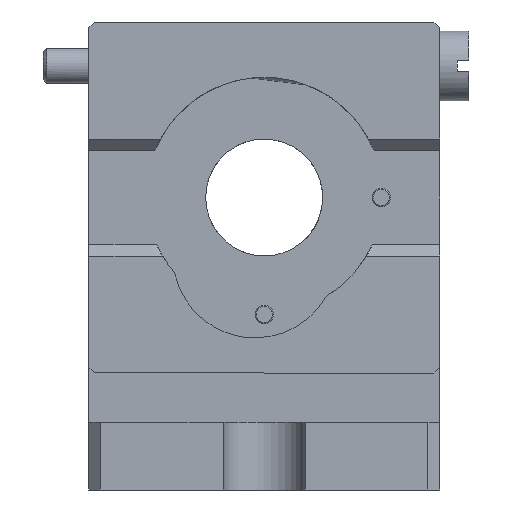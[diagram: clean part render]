
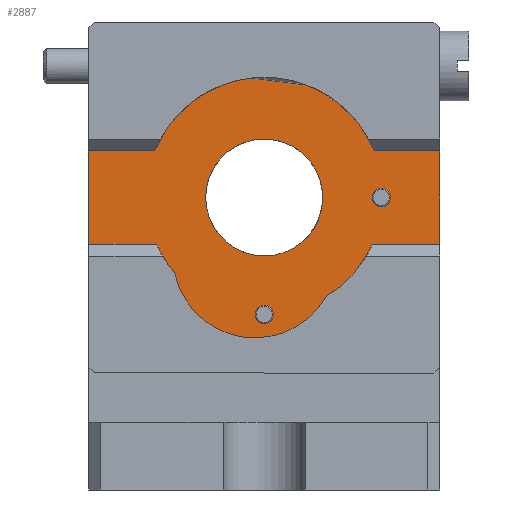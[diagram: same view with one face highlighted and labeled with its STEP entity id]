
A CAD part, front view. The second image highlights one B-rep face of the part: STEP entity #2887.
In plain terms, the highlighted planar face has unit normal (0, -1, 0).
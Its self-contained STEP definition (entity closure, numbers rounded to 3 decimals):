
#2244=CARTESIAN_POINT('',(-15.,-11.,21.0));
#2245=VERTEX_POINT('',#2244);
#2252=CARTESIAN_POINT('',(-15.0,-11.,29.));
#2253=VERTEX_POINT('',#2252);
#2254=CARTESIAN_POINT('',(-15.,-11.,21.0));
#2255=DIRECTION('',(0.0,0.0,1.0));
#2256=VECTOR('',#2255,8.);
#2257=LINE('',#2254,#2256);
#2258=EDGE_CURVE('',#2245,#2253,#2257,.T.);
#2352=CARTESIAN_POINT('',(-9.343,-11.,29.));
#2353=VERTEX_POINT('',#2352);
#2354=CARTESIAN_POINT('',(-9.343,-11.,29.));
#2355=DIRECTION('',(-1.0,0.0,0.0));
#2356=VECTOR('',#2355,5.657);
#2357=LINE('',#2354,#2356);
#2358=EDGE_CURVE('',#2353,#2253,#2357,.T.);
#2407=CARTESIAN_POINT('',(9.395,-11.,29.));
#2408=VERTEX_POINT('',#2407);
#2415=CARTESIAN_POINT('',(15.,-11.,29.));
#2416=VERTEX_POINT('',#2415);
#2417=CARTESIAN_POINT('',(15.,-11.,29.));
#2418=DIRECTION('',(-1.0,0.0,0.0));
#2419=VECTOR('',#2418,5.605);
#2420=LINE('',#2417,#2419);
#2421=EDGE_CURVE('',#2416,#2408,#2420,.T.);
#2439=CARTESIAN_POINT('',(0.026,-11.,25.162));
#2440=DIRECTION('',(0.0,-1.0,0.0));
#2441=DIRECTION('',(0.0,0.0,-1.0));
#2442=AXIS2_PLACEMENT_3D('',#2439,#2440,#2441);
#2443=CIRCLE('',#2442,10.125);
#2444=EDGE_CURVE('',#2408,#2353,#2443,.T.);
#2541=CARTESIAN_POINT('',(0.,-11.,15.784));
#2542=VERTEX_POINT('',#2541);
#2543=CARTESIAN_POINT('',(0.,-11.,15.0));
#2544=DIRECTION('',(0.0,1.0,0.0));
#2545=DIRECTION('',(0.0,0.0,-1.0));
#2546=AXIS2_PLACEMENT_3D('',#2543,#2544,#2545);
#2547=CIRCLE('',#2546,0.784);
#2548=EDGE_CURVE('',#2542,#2542,#2547,.T.);
#2582=CARTESIAN_POINT('',(9.217,-11.,25.0));
#2583=VERTEX_POINT('',#2582);
#2584=CARTESIAN_POINT('',(10.,-11.,25.0));
#2585=DIRECTION('',(0.0,1.0,0.0));
#2586=DIRECTION('',(1.0,0.0,0.0));
#2587=AXIS2_PLACEMENT_3D('',#2584,#2585,#2586);
#2588=CIRCLE('',#2587,0.784);
#2589=EDGE_CURVE('',#2583,#2583,#2588,.T.);
#2757=CARTESIAN_POINT('',(-7.65,-11.,18.56));
#2758=VERTEX_POINT('',#2757);
#2759=CARTESIAN_POINT('',(5.259,-11.,16.494));
#2760=VERTEX_POINT('',#2759);
#2761=CARTESIAN_POINT('',(-0.8,-11.,20.0));
#2762=DIRECTION('',(0.,-1.0,0.));
#2763=DIRECTION('',(-0.979,0.,-0.206));
#2764=AXIS2_PLACEMENT_3D('',#2761,#2762,#2763);
#2765=CIRCLE('',#2764,7.);
#2766=EDGE_CURVE('',#2758,#2760,#2765,.T.);
#2790=CARTESIAN_POINT('',(9.256,-11.,21.0));
#2791=VERTEX_POINT('',#2790);
#2798=CARTESIAN_POINT('',(0.026,-11.,25.162));
#2799=DIRECTION('',(0.0,-1.0,0.0));
#2800=DIRECTION('',(0.0,0.0,-1.0));
#2801=AXIS2_PLACEMENT_3D('',#2798,#2799,#2800);
#2802=CIRCLE('',#2801,10.125);
#2803=EDGE_CURVE('',#2760,#2791,#2802,.T.);
#2818=CARTESIAN_POINT('',(-9.204,-11.,21.0));
#2819=VERTEX_POINT('',#2818);
#2820=CARTESIAN_POINT('',(0.026,-11.,25.162));
#2821=DIRECTION('',(0.0,-1.0,0.0));
#2822=DIRECTION('',(0.0,0.0,-1.0));
#2823=AXIS2_PLACEMENT_3D('',#2820,#2821,#2822);
#2824=CIRCLE('',#2823,10.125);
#2825=EDGE_CURVE('',#2819,#2758,#2824,.T.);
#2836=CARTESIAN_POINT('',(15.,-11.,21.0));
#2837=DIRECTION('',(0.0,1.0,0.0));
#2838=DIRECTION('',(0.0,0.0,1.0));
#2839=AXIS2_PLACEMENT_3D('',#2836,#2837,#2838);
#2840=PLANE('',#2839);
#2841=ORIENTED_EDGE('',*,*,#2358,.T.);
#2842=ORIENTED_EDGE('',*,*,#2258,.F.);
#2843=CARTESIAN_POINT('',(-9.204,-11.,21.0));
#2844=DIRECTION('',(-1.0,0.0,0.0));
#2845=VECTOR('',#2844,5.796);
#2846=LINE('',#2843,#2845);
#2847=EDGE_CURVE('',#2819,#2245,#2846,.T.);
#2848=ORIENTED_EDGE('',*,*,#2847,.F.);
#2849=ORIENTED_EDGE('',*,*,#2825,.T.);
#2850=ORIENTED_EDGE('',*,*,#2766,.T.);
#2851=ORIENTED_EDGE('',*,*,#2803,.T.);
#2852=CARTESIAN_POINT('',(15.,-11.,21.0));
#2853=VERTEX_POINT('',#2852);
#2854=CARTESIAN_POINT('',(15.,-11.,21.0));
#2855=DIRECTION('',(-1.0,0.0,0.0));
#2856=VECTOR('',#2855,5.744);
#2857=LINE('',#2854,#2856);
#2858=EDGE_CURVE('',#2853,#2791,#2857,.T.);
#2859=ORIENTED_EDGE('',*,*,#2858,.F.);
#2860=CARTESIAN_POINT('',(15.,-11.,29.));
#2861=DIRECTION('',(0.0,0.0,-1.0));
#2862=VECTOR('',#2861,8.);
#2863=LINE('',#2860,#2862);
#2864=EDGE_CURVE('',#2416,#2853,#2863,.T.);
#2865=ORIENTED_EDGE('',*,*,#2864,.F.);
#2866=ORIENTED_EDGE('',*,*,#2421,.T.);
#2867=ORIENTED_EDGE('',*,*,#2444,.T.);
#2868=EDGE_LOOP('',(#2841,#2842,#2848,#2849,#2850,#2851,#2859,#2865,#2866,#2867));
#2869=FACE_OUTER_BOUND('',#2868,.T.);
#2870=ORIENTED_EDGE('',*,*,#2548,.T.);
#2871=EDGE_LOOP('',(#2870));
#2872=FACE_BOUND('',#2871,.T.);
#2873=ORIENTED_EDGE('',*,*,#2589,.T.);
#2874=EDGE_LOOP('',(#2873));
#2875=FACE_BOUND('',#2874,.T.);
#2876=CARTESIAN_POINT('',(-3.,-11.,29.));
#2877=VERTEX_POINT('',#2876);
#2878=CARTESIAN_POINT('',(0.,-11.,25.0));
#2879=DIRECTION('',(0.0,-1.0,0.0));
#2880=DIRECTION('',(1.0,0.0,0.0));
#2881=AXIS2_PLACEMENT_3D('',#2878,#2879,#2880);
#2882=CIRCLE('',#2881,5.0);
#2883=EDGE_CURVE('',#2877,#2877,#2882,.T.);
#2884=ORIENTED_EDGE('',*,*,#2883,.F.);
#2885=EDGE_LOOP('',(#2884));
#2886=FACE_BOUND('',#2885,.T.);
#2887=ADVANCED_FACE('',(#2869,#2872,#2875,#2886),#2840,.F.);
